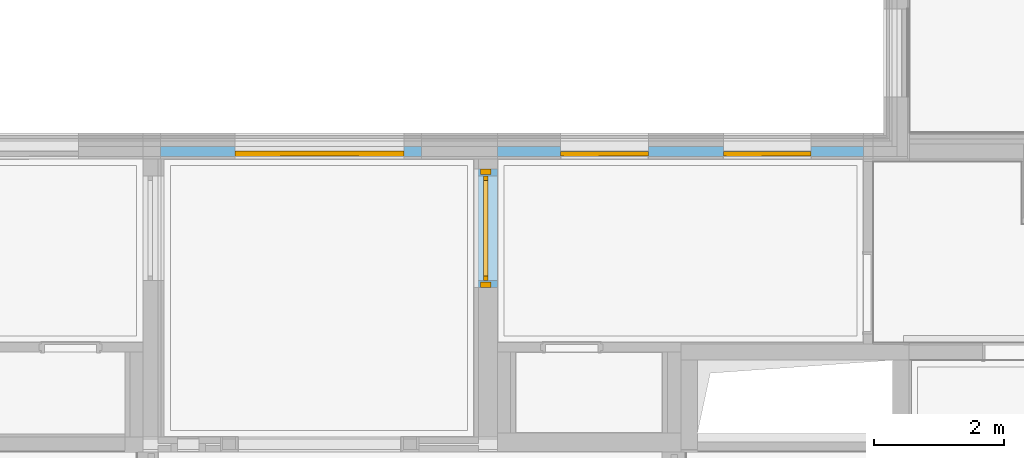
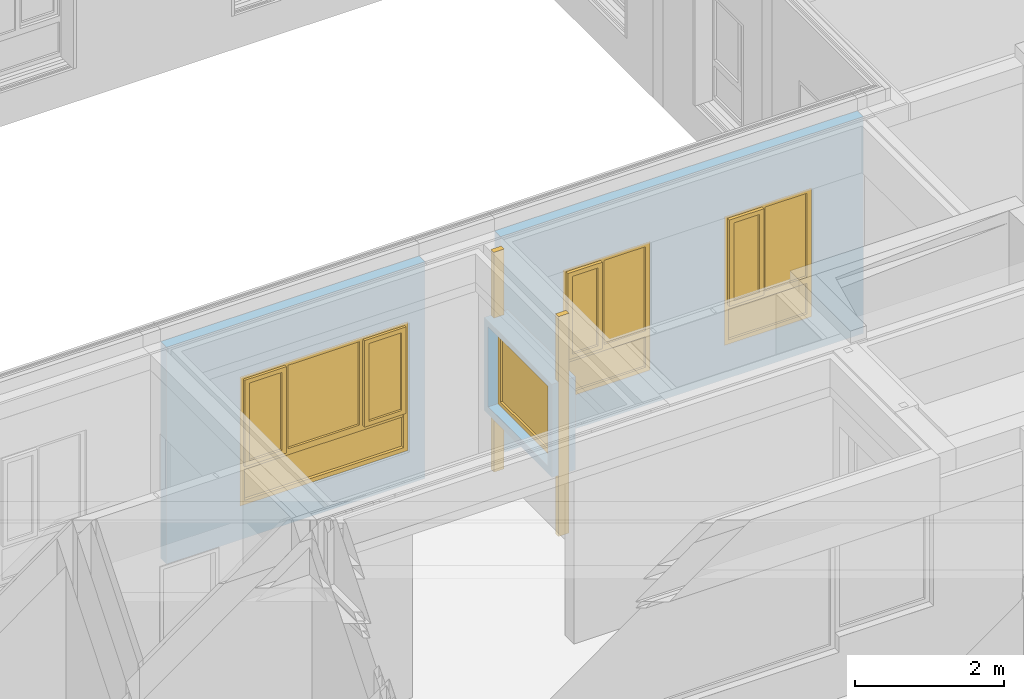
# One storey, part 94 of 222: 4 windows, 4 openings, plus 3 elements that do not belong to this part.
"""IFC4 building model written with IfcOpenShell, lengths in metres."""

from ifc_helpers import new_model, entity, si_unit, converted_unit, derived_unit, frame, frame_2d, origin, origin_with_axes, place, context, subcontext, project, spatial, polyline, rectangle, outline, extrude, closed_shell, open_shell, faceted_brep, surface_model, source, transform, mapped, material, element, fill, save


model = new_model("IFC4")

# Units and contexts
model_context = context("Model", 3, precision=1e-05, world=origin())
body_context = subcontext(model_context, "Body", "Model", "MODEL_VIEW")
ifc_project = project(units=[si_unit("LENGTHUNIT", "METRE"), si_unit("AREAUNIT", "SQUARE_METRE"), si_unit("VOLUMEUNIT", "CUBIC_METRE"), si_unit("MASSUNIT", "GRAM", prefix="KILO"), converted_unit("PLANEANGLEUNIT", "DEGREE", entity("IfcPlaneAngleMeasure", 0.0174532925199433), si_unit("PLANEANGLEUNIT", "RADIAN"), dimensions=[0, 0, 0, 0, 0, 0, 0]), derived_unit("THERMALTRANSMITTANCEUNIT", [(si_unit("POWERUNIT", "WATT"), 1), (si_unit("THERMODYNAMICTEMPERATUREUNIT", "KELVIN"), -1), (si_unit("LENGTHUNIT", "METRE"), -2)]), derived_unit("VOLUMETRICFLOWRATEUNIT", [(si_unit("LENGTHUNIT", "METRE"), 3), (converted_unit("TIMEUNIT", "hour", entity("IfcTimeMeasure", 3600.0), si_unit("TIMEUNIT", "SECOND"), dimensions=[0, 0, 1, 0, 0, 0, 0]), -1), (si_unit("LENGTHUNIT", "METRE"), -1)])], contexts=[model_context])

# Site, building, storey
site_placement = place(None, origin())
site = spatial("IfcSite", under=ifc_project, at=site_placement, Name="Psychiatrie Neubau Wunstorf", CompositionType="ELEMENT")
building_placement = place(site_placement, origin())
building = spatial("IfcBuilding", under=site, at=building_placement, Name="Neubau H2 Stationsgebäude", CompositionType="ELEMENT")
storey_placement = place(building_placement, frame((0.0, 0.0, 3.6)))
storey = spatial("IfcBuildingStorey", under=building, at=storey_placement, Name="H2 Ebene +1", CompositionType="ELEMENT", Elevation=3.6)

# Wall, openings, windows
ifc_material_1 = material(Name="WA-DL")
wall_1_placement = place(storey_placement, frame((55.7325000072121, 10.1499996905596, 0.0)))
wall_1 = element("IfcWall", 1, at=wall_1_placement, inside=storey, material=ifc_material_1, context=body_context, shape_type="SweptSolid", body=[
    extrude(rectangle(XDim=5.61749999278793, YDim=0.16, at=frame_2d((2.80874999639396, 0.08), x_axis=(1.0, 0.0))), origin_with_axes(), (0.0, 0.0, 1.0), 3.55),
])
opening_1_placement = place(wall_1_placement, frame((2.31619999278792, 0.16, 0.55), z_axis=(0.0, -1.0, 0.0), x_axis=(0.0, 0.0, 1.0)))
opening_1 = element("IfcOpeningElement", 2, at=opening_1_placement, cuts=wall_1, Name="Fensteröffnung", ObjectType="Opening", context=body_context, shape_type="SweptSolid", body=[
    extrude(outline(polyline([(2.115, 1.35), (2.115, 0.0), (0.0, 0.0), (0.0, 1.35), (2.115, 1.35)])), origin_with_axes(), (0.0, 0.0, 1.0), 0.16),
])
opening_2_placement = place(wall_1_placement, frame((4.81619999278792, 0.16, 0.55), z_axis=(0.0, -1.0, 0.0), x_axis=(0.0, 0.0, 1.0)))
opening_2 = element("IfcOpeningElement", 3, at=opening_2_placement, cuts=wall_1, Name="Fensteröffnung", ObjectType="Opening", context=body_context, shape_type="SweptSolid", body=[
    extrude(outline(polyline([(2.115, 1.35), (2.115, 0.0), (0.0, 0.0), (0.0, 1.35), (2.115, 1.35)])), origin_with_axes(), (0.0, 0.0, 1.0), 0.16),
])
shared_shape_1 = source(origin_with_axes(), body_context, "Body", "SurfaceModel", [
    surface_model("IfcShellBasedSurfaceModel", [(1.35, 0.0, 2.115), (1.35, 0.0, 0.0), (1.28, 0.0, 0.0), (1.28, 0.0, 2.115), (1.35, 0.0699999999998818, 0.0), (1.35, 0.0699999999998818, 2.115), (1.28, 0.0699999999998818, 2.115), (1.28, 0.0699999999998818, 0.0)], [closed_shell([[[0, 1, 2, 3]], [[4, 5, 6, 7]], [[1, 0, 5, 4]], [[2, 1, 4, 7]], [[3, 2, 7, 6]], [[0, 3, 6, 5]]], orient=[[False], [False], [False], [False], [False], [False]])]),
    surface_model("IfcShellBasedSurfaceModel", [(0.07, 0.0, 2.115), (0.07, 0.0, 0.0), (0.0, 0.0, 0.0), (0.0, 0.0, 2.115), (0.07, 0.0699999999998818, 0.0), (0.07, 0.0699999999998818, 2.115), (0.0, 0.0699999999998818, 2.115), (0.0, 0.0699999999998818, 0.0)], [closed_shell([[[0, 1, 2, 3]], [[4, 5, 6, 7]], [[1, 0, 5, 4]], [[2, 1, 4, 7]], [[3, 2, 7, 6]], [[0, 3, 6, 5]]], orient=[[False], [False], [False], [False], [False], [False]])]),
    surface_model("IfcShellBasedSurfaceModel", [(1.28, 0.0, 0.07), (1.28, 0.0, 0.0), (0.07, 0.0, 0.0), (0.07, 0.0, 0.07), (1.28, 0.0699999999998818, 0.0), (1.28, 0.0699999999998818, 0.07), (0.07, 0.0699999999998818, 0.07), (0.07, 0.0699999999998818, 0.0)], [closed_shell([[[0, 1, 2, 3]], [[4, 5, 6, 7]], [[1, 0, 5, 4]], [[2, 1, 4, 7]], [[3, 2, 7, 6]], [[0, 3, 6, 5]]], orient=[[False], [False], [False], [False], [False], [False]])]),
    surface_model("IfcShellBasedSurfaceModel", [(1.28, 0.0, 2.115), (1.28, 0.0, 2.045), (0.07, 0.0, 2.045), (0.07, 0.0, 2.115), (1.28, 0.0699999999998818, 2.045), (1.28, 0.0699999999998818, 2.115), (0.07, 0.0699999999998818, 2.115), (0.07, 0.0699999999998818, 2.045)], [closed_shell([[[0, 1, 2, 3]], [[4, 5, 6, 7]], [[1, 0, 5, 4]], [[2, 1, 4, 7]], [[3, 2, 7, 6]], [[0, 3, 6, 5]]], orient=[[False], [False], [False], [False], [False], [False]])]),
    surface_model("IfcShellBasedSurfaceModel", [(1.28, 0.0, 0.67), (1.28, 0.0, 0.57), (0.07, 0.0, 0.57), (0.07, 0.0, 0.67), (1.28, 0.0699999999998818, 0.57), (1.28, 0.0699999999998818, 0.67), (0.07, 0.0699999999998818, 0.67), (0.07, 0.0699999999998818, 0.57)], [closed_shell([[[0, 1, 2, 3]], [[4, 5, 6, 7]], [[1, 0, 5, 4]], [[2, 1, 4, 7]], [[3, 2, 7, 6]], [[0, 3, 6, 5]]], orient=[[False], [False], [False], [False], [False], [False]])]),
    surface_model("IfcShellBasedSurfaceModel", [(1.28, 0.03499999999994, 0.07), (0.07, 0.0349999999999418, 0.07), (0.07, 0.03499999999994, 0.57), (1.28, 0.03499999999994, 0.57)], [open_shell([[[0, 1, 2, 3]]], orient=[[False]])]),
    surface_model("IfcShellBasedSurfaceModel", [(0.784300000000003, 0.0, 2.045), (0.784300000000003, 0.0, 0.67), (0.714300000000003, 0.0, 0.67), (0.714300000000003, 0.0, 2.045), (0.784300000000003, 0.0699999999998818, 0.67), (0.784300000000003, 0.0699999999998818, 2.045), (0.714300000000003, 0.0699999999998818, 2.045), (0.714300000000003, 0.0699999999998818, 0.67)], [closed_shell([[[0, 1, 2, 3]], [[4, 5, 6, 7]], [[1, 0, 5, 4]], [[2, 1, 4, 7]], [[3, 2, 7, 6]], [[0, 3, 6, 5]]], orient=[[False], [False], [False], [False], [False], [False]])]),
    surface_model("IfcShellBasedSurfaceModel", [(1.3, 0.0499999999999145, 2.065), (1.3, 0.0499999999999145, 0.65), (1.23, 0.0499999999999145, 0.65), (1.23, 0.0499999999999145, 2.065), (1.3, 0.119999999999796, 0.65), (1.3, 0.119999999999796, 2.065), (1.23, 0.119999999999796, 2.065), (1.23, 0.119999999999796, 0.65)], [closed_shell([[[0, 1, 2, 3]], [[4, 5, 6, 7]], [[1, 0, 5, 4]], [[2, 1, 4, 7]], [[3, 2, 7, 6]], [[0, 3, 6, 5]]], orient=[[False], [False], [False], [False], [False], [False]])]),
    surface_model("IfcShellBasedSurfaceModel", [(0.834300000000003, 0.0499999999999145, 2.065), (0.834300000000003, 0.0499999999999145, 0.65), (0.764300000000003, 0.0499999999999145, 0.65), (0.764300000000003, 0.0499999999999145, 2.065), (0.834300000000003, 0.119999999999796, 0.65), (0.834300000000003, 0.119999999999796, 2.065), (0.764300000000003, 0.119999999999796, 2.065), (0.764300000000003, 0.119999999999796, 0.65)], [closed_shell([[[0, 1, 2, 3]], [[4, 5, 6, 7]], [[1, 0, 5, 4]], [[2, 1, 4, 7]], [[3, 2, 7, 6]], [[0, 3, 6, 5]]], orient=[[False], [False], [False], [False], [False], [False]])]),
    surface_model("IfcShellBasedSurfaceModel", [(1.23, 0.0499999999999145, 0.72), (1.23, 0.0499999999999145, 0.65), (0.834300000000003, 0.0499999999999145, 0.65), (0.834300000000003, 0.0499999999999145, 0.72), (1.23, 0.119999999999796, 0.65), (1.23, 0.119999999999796, 0.72), (0.834300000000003, 0.119999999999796, 0.72), (0.834300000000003, 0.119999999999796, 0.65)], [closed_shell([[[0, 1, 2, 3]], [[4, 5, 6, 7]], [[1, 0, 5, 4]], [[2, 1, 4, 7]], [[3, 2, 7, 6]], [[0, 3, 6, 5]]], orient=[[False], [False], [False], [False], [False], [False]])]),
    surface_model("IfcShellBasedSurfaceModel", [(1.23, 0.0499999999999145, 2.065), (1.23, 0.0499999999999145, 1.995), (0.834300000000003, 0.0499999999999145, 1.995), (0.834300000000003, 0.0499999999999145, 2.065), (1.23, 0.119999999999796, 1.995), (1.23, 0.119999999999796, 2.065), (0.834300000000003, 0.119999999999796, 2.065), (0.834300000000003, 0.119999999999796, 1.995)], [closed_shell([[[0, 1, 2, 3]], [[4, 5, 6, 7]], [[1, 0, 5, 4]], [[2, 1, 4, 7]], [[3, 2, 7, 6]], [[0, 3, 6, 5]]], orient=[[False], [False], [False], [False], [False], [False]])]),
    surface_model("IfcShellBasedSurfaceModel", [(0.714300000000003, 0.03499999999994, 0.67), (0.07, 0.03499999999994, 0.67), (0.07, 0.03499999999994, 2.045), (0.714300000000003, 0.03499999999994, 2.045)], [open_shell([[[0, 1, 2, 3]]], orient=[[False]])]),
    surface_model("IfcShellBasedSurfaceModel", [(1.23, 0.0849999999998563, 0.72), (0.834300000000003, 0.0849999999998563, 0.72), (0.834300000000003, 0.0849999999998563, 1.995), (1.23, 0.0849999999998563, 1.995)], [open_shell([[[0, 1, 2, 3]]], orient=[[False]])]),
])
window_1_placement = place(opening_1_placement, frame((0.0, 0.0, 0.081), z_axis=(1.0, 0.0, 0.0), x_axis=(0.0, 1.0, 0.0)))
window_1 = element("IfcWindow", 4, at=window_1_placement, inside=storey, Name="Fenster", OverallHeight=2.115, OverallWidth=1.35, PartitioningType="USERDEFINED", PredefinedType="WINDOW", context=body_context, shape_type="MappedRepresentation", body=[
    mapped(shared_shape_1, transform((0.0, 0.0, 0.0), x_axis=(1.0, 0.0, 0.0), y_axis=(0.0, 1.0, 0.0), z_axis=(0.0, 0.0, 1.0), scale=1.0)),
])
fill(opening_1, window_1)
shared_shape_2 = source(origin_with_axes(), body_context, "Body", "SurfaceModel", [
    surface_model("IfcShellBasedSurfaceModel", [(1.35, 0.0, 2.115), (1.35, 0.0, 0.0), (1.28, 0.0, 0.0), (1.28, 0.0, 2.115), (1.35, 0.0699999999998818, 0.0), (1.35, 0.0699999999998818, 2.115), (1.28, 0.0699999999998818, 2.115), (1.28, 0.0699999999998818, 0.0)], [closed_shell([[[0, 1, 2, 3]], [[4, 5, 6, 7]], [[1, 0, 5, 4]], [[2, 1, 4, 7]], [[3, 2, 7, 6]], [[0, 3, 6, 5]]], orient=[[False], [False], [False], [False], [False], [False]])]),
    surface_model("IfcShellBasedSurfaceModel", [(0.07, 0.0, 2.115), (0.07, 0.0, 0.0), (0.0, 0.0, 0.0), (0.0, 0.0, 2.115), (0.07, 0.0699999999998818, 0.0), (0.07, 0.0699999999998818, 2.115), (0.0, 0.0699999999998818, 2.115), (0.0, 0.0699999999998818, 0.0)], [closed_shell([[[0, 1, 2, 3]], [[4, 5, 6, 7]], [[1, 0, 5, 4]], [[2, 1, 4, 7]], [[3, 2, 7, 6]], [[0, 3, 6, 5]]], orient=[[False], [False], [False], [False], [False], [False]])]),
    surface_model("IfcShellBasedSurfaceModel", [(1.28, 0.0, 0.07), (1.28, 0.0, 0.0), (0.07, 0.0, 0.0), (0.07, 0.0, 0.07), (1.28, 0.0699999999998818, 0.0), (1.28, 0.0699999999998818, 0.07), (0.07, 0.0699999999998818, 0.07), (0.07, 0.0699999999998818, 0.0)], [closed_shell([[[0, 1, 2, 3]], [[4, 5, 6, 7]], [[1, 0, 5, 4]], [[2, 1, 4, 7]], [[3, 2, 7, 6]], [[0, 3, 6, 5]]], orient=[[False], [False], [False], [False], [False], [False]])]),
    surface_model("IfcShellBasedSurfaceModel", [(1.28, 0.0, 2.115), (1.28, 0.0, 2.045), (0.07, 0.0, 2.045), (0.07, 0.0, 2.115), (1.28, 0.0699999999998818, 2.045), (1.28, 0.0699999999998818, 2.115), (0.07, 0.0699999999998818, 2.115), (0.07, 0.0699999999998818, 2.045)], [closed_shell([[[0, 1, 2, 3]], [[4, 5, 6, 7]], [[1, 0, 5, 4]], [[2, 1, 4, 7]], [[3, 2, 7, 6]], [[0, 3, 6, 5]]], orient=[[False], [False], [False], [False], [False], [False]])]),
    surface_model("IfcShellBasedSurfaceModel", [(1.28, 0.0, 0.67), (1.28, 0.0, 0.57), (0.07, 0.0, 0.57), (0.07, 0.0, 0.67), (1.28, 0.0699999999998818, 0.57), (1.28, 0.0699999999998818, 0.67), (0.07, 0.0699999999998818, 0.67), (0.07, 0.0699999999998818, 0.57)], [closed_shell([[[0, 1, 2, 3]], [[4, 5, 6, 7]], [[1, 0, 5, 4]], [[2, 1, 4, 7]], [[3, 2, 7, 6]], [[0, 3, 6, 5]]], orient=[[False], [False], [False], [False], [False], [False]])]),
    surface_model("IfcShellBasedSurfaceModel", [(1.28, 0.03499999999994, 0.07), (0.07, 0.0349999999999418, 0.07), (0.07, 0.03499999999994, 0.57), (1.28, 0.03499999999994, 0.57)], [open_shell([[[0, 1, 2, 3]]], orient=[[False]])]),
    surface_model("IfcShellBasedSurfaceModel", [(0.784300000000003, 0.0, 2.045), (0.784300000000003, 0.0, 0.67), (0.714300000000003, 0.0, 0.67), (0.714300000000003, 0.0, 2.045), (0.784300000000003, 0.0699999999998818, 0.67), (0.784300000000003, 0.0699999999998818, 2.045), (0.714300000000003, 0.0699999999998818, 2.045), (0.714300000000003, 0.0699999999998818, 0.67)], [closed_shell([[[0, 1, 2, 3]], [[4, 5, 6, 7]], [[1, 0, 5, 4]], [[2, 1, 4, 7]], [[3, 2, 7, 6]], [[0, 3, 6, 5]]], orient=[[False], [False], [False], [False], [False], [False]])]),
    surface_model("IfcShellBasedSurfaceModel", [(1.3, 0.0499999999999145, 2.065), (1.3, 0.0499999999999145, 0.65), (1.23, 0.0499999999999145, 0.65), (1.23, 0.0499999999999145, 2.065), (1.3, 0.119999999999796, 0.65), (1.3, 0.119999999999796, 2.065), (1.23, 0.119999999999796, 2.065), (1.23, 0.119999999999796, 0.65)], [closed_shell([[[0, 1, 2, 3]], [[4, 5, 6, 7]], [[1, 0, 5, 4]], [[2, 1, 4, 7]], [[3, 2, 7, 6]], [[0, 3, 6, 5]]], orient=[[False], [False], [False], [False], [False], [False]])]),
    surface_model("IfcShellBasedSurfaceModel", [(0.834300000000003, 0.0499999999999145, 2.065), (0.834300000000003, 0.0499999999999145, 0.65), (0.764300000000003, 0.0499999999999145, 0.65), (0.764300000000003, 0.0499999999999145, 2.065), (0.834300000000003, 0.119999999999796, 0.65), (0.834300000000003, 0.119999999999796, 2.065), (0.764300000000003, 0.119999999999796, 2.065), (0.764300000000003, 0.119999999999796, 0.65)], [closed_shell([[[0, 1, 2, 3]], [[4, 5, 6, 7]], [[1, 0, 5, 4]], [[2, 1, 4, 7]], [[3, 2, 7, 6]], [[0, 3, 6, 5]]], orient=[[False], [False], [False], [False], [False], [False]])]),
    surface_model("IfcShellBasedSurfaceModel", [(1.23, 0.0499999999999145, 0.72), (1.23, 0.0499999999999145, 0.65), (0.834300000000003, 0.0499999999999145, 0.65), (0.834300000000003, 0.0499999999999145, 0.72), (1.23, 0.119999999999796, 0.65), (1.23, 0.119999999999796, 0.72), (0.834300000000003, 0.119999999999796, 0.72), (0.834300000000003, 0.119999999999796, 0.65)], [closed_shell([[[0, 1, 2, 3]], [[4, 5, 6, 7]], [[1, 0, 5, 4]], [[2, 1, 4, 7]], [[3, 2, 7, 6]], [[0, 3, 6, 5]]], orient=[[False], [False], [False], [False], [False], [False]])]),
    surface_model("IfcShellBasedSurfaceModel", [(1.23, 0.0499999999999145, 2.065), (1.23, 0.0499999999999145, 1.995), (0.834300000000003, 0.0499999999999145, 1.995), (0.834300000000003, 0.0499999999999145, 2.065), (1.23, 0.119999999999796, 1.995), (1.23, 0.119999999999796, 2.065), (0.834300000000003, 0.119999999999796, 2.065), (0.834300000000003, 0.119999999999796, 1.995)], [closed_shell([[[0, 1, 2, 3]], [[4, 5, 6, 7]], [[1, 0, 5, 4]], [[2, 1, 4, 7]], [[3, 2, 7, 6]], [[0, 3, 6, 5]]], orient=[[False], [False], [False], [False], [False], [False]])]),
    surface_model("IfcShellBasedSurfaceModel", [(0.714300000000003, 0.03499999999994, 0.67), (0.07, 0.03499999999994, 0.67), (0.07, 0.03499999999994, 2.045), (0.714300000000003, 0.03499999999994, 2.045)], [open_shell([[[0, 1, 2, 3]]], orient=[[False]])]),
    surface_model("IfcShellBasedSurfaceModel", [(1.23, 0.0849999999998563, 0.72), (0.834300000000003, 0.0849999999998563, 0.72), (0.834300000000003, 0.0849999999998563, 1.995), (1.23, 0.0849999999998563, 1.995)], [open_shell([[[0, 1, 2, 3]]], orient=[[False]])]),
])
window_2_placement = place(opening_2_placement, frame((0.0, 0.0, 0.081), z_axis=(1.0, 0.0, 0.0), x_axis=(0.0, 1.0, 0.0)))
window_2 = element("IfcWindow", 5, at=window_2_placement, inside=storey, Name="Fenster", OverallHeight=2.115, OverallWidth=1.35, PartitioningType="USERDEFINED", PredefinedType="WINDOW", context=body_context, shape_type="MappedRepresentation", body=[
    mapped(shared_shape_2, transform((0.0, 0.0, 0.0), x_axis=(1.0, 0.0, 0.0), y_axis=(0.0, 1.0, 0.0), z_axis=(0.0, 0.0, 1.0), scale=1.0)),
])
fill(opening_2, window_2)

# Wall, opening, window
ifc_material_2 = material(Name="WA-DL")
wall_2_placement = place(storey_placement, frame((50.5580000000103, 10.1499996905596, 0.0)))
wall_2 = element("IfcWall", 6, at=wall_2_placement, inside=storey, material=ifc_material_2, context=body_context, shape_type="SweptSolid", body=[
    extrude(rectangle(XDim=4.00450000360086, YDim=0.16, at=frame_2d((2.00225000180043, 0.08), x_axis=(1.0, 0.0))), origin_with_axes(), (0.0, 0.0, 1.0), 3.55),
])
opening_3_placement = place(wall_2_placement, frame((3.74067714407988, 0.16, 0.55), z_axis=(0.0, -1.0, 0.0), x_axis=(0.0, 0.0, 1.0)))
opening_3 = element("IfcOpeningElement", 7, at=opening_3_placement, cuts=wall_2, Name="Fensteröffnung", ObjectType="Opening", context=body_context, shape_type="SweptSolid", body=[
    extrude(outline(polyline([(2.115, 2.6), (2.115, 0.0), (0.0, 0.0), (0.0, 2.6), (2.115, 2.6)])), origin_with_axes(), (0.0, 0.0, 1.0), 0.16),
])
shared_shape_3 = source(origin_with_axes(), body_context, "Body", "SurfaceModel", [
    surface_model("IfcShellBasedSurfaceModel", [(2.6, 0.0, 2.115), (2.6, 0.0, 0.0), (2.53, 0.0, 0.0), (2.53, 0.0, 2.115), (2.6, 0.08, 0.0), (2.6, 0.08, 2.115), (2.53, 0.08, 2.115), (2.53, 0.08, 0.0)], [closed_shell([[[0, 1, 2, 3]], [[4, 5, 6, 7]], [[1, 0, 5, 4]], [[2, 1, 4, 7]], [[3, 2, 7, 6]], [[0, 3, 6, 5]]], orient=[[False], [False], [False], [False], [False], [False]])]),
    surface_model("IfcShellBasedSurfaceModel", [(0.07, 0.0, 2.115), (0.07, 0.0, 0.0), (0.0, 0.0, 0.0), (0.0, 0.0, 2.115), (0.07, 0.08, 0.0), (0.07, 0.08, 2.115), (0.0, 0.08, 2.115), (0.0, 0.08, 0.0)], [closed_shell([[[0, 1, 2, 3]], [[4, 5, 6, 7]], [[1, 0, 5, 4]], [[2, 1, 4, 7]], [[3, 2, 7, 6]], [[0, 3, 6, 5]]], orient=[[False], [False], [False], [False], [False], [False]])]),
    surface_model("IfcShellBasedSurfaceModel", [(2.53, 0.0, 0.07), (2.53, 0.0, 0.0), (0.07, 0.0, 0.0), (0.07, 0.0, 0.07), (2.53, 0.08, 0.0), (2.53, 0.08, 0.07), (0.07, 0.08, 0.07), (0.07, 0.08, 0.0)], [closed_shell([[[0, 1, 2, 3]], [[4, 5, 6, 7]], [[1, 0, 5, 4]], [[2, 1, 4, 7]], [[3, 2, 7, 6]], [[0, 3, 6, 5]]], orient=[[False], [False], [False], [False], [False], [False]])]),
    surface_model("IfcShellBasedSurfaceModel", [(2.53, 0.0, 2.115), (2.53, 0.0, 2.045), (0.07, 0.0, 2.045), (0.07, 0.0, 2.115), (2.53, 0.08, 2.045), (2.53, 0.08, 2.115), (0.07, 0.08, 2.115), (0.07, 0.08, 2.045)], [closed_shell([[[0, 1, 2, 3]], [[4, 5, 6, 7]], [[1, 0, 5, 4]], [[2, 1, 4, 7]], [[3, 2, 7, 6]], [[0, 3, 6, 5]]], orient=[[False], [False], [False], [False], [False], [False]])]),
    surface_model("IfcShellBasedSurfaceModel", [(2.53, 0.01, 0.67), (2.53, 0.01, 0.57), (0.07, 0.01, 0.57), (0.07, 0.01, 0.67), (2.53, 0.08, 0.57), (2.53, 0.08, 0.67), (0.07, 0.08, 0.67), (0.07, 0.08, 0.57)], [closed_shell([[[0, 1, 2, 3]], [[4, 5, 6, 7]], [[1, 0, 5, 4]], [[2, 1, 4, 7]], [[3, 2, 7, 6]], [[0, 3, 6, 5]]], orient=[[False], [False], [False], [False], [False], [False]])]),
    surface_model("IfcShellBasedSurfaceModel", [(2.53, 0.045, 0.07), (0.07, 0.045, 0.07), (0.07, 0.045, 0.57), (2.53, 0.045, 0.57)], [open_shell([[[0, 1, 2, 3]]], orient=[[False]])]),
    surface_model("IfcShellBasedSurfaceModel", [(1.925, 0.01, 2.045), (1.925, 0.01, 0.67), (1.855, 0.01, 0.67), (1.855, 0.01, 2.045), (1.925, 0.08, 0.67), (1.925, 0.08, 2.045), (1.855, 0.08, 2.045), (1.855, 0.08, 0.67)], [closed_shell([[[0, 1, 2, 3]], [[4, 5, 6, 7]], [[1, 0, 5, 4]], [[2, 1, 4, 7]], [[3, 2, 7, 6]], [[0, 3, 6, 5]]], orient=[[False], [False], [False], [False], [False], [False]])]),
    surface_model("IfcShellBasedSurfaceModel", [(2.55, -0.0400000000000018, 2.065), (2.55, -0.0400000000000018, 0.65), (2.48, -0.0400000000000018, 0.65), (2.48, -0.0400000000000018, 2.065), (2.55, 0.03, 0.65), (2.55, 0.03, 2.065), (2.48, 0.03, 2.065), (2.48, 0.03, 0.65)], [closed_shell([[[0, 1, 2, 3]], [[4, 5, 6, 7]], [[1, 0, 5, 4]], [[2, 1, 4, 7]], [[3, 2, 7, 6]], [[0, 3, 6, 5]]], orient=[[False], [False], [False], [False], [False], [False]])]),
    surface_model("IfcShellBasedSurfaceModel", [(1.975, -0.0400000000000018, 2.065), (1.975, -0.04, 0.65), (1.905, -0.04, 0.65), (1.905, -0.0400000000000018, 2.065), (1.975, 0.03, 0.65), (1.975, 0.03, 2.065), (1.905, 0.03, 2.065), (1.905, 0.03, 0.65)], [closed_shell([[[0, 1, 2, 3]], [[4, 5, 6, 7]], [[1, 0, 5, 4]], [[2, 1, 4, 7]], [[3, 2, 7, 6]], [[0, 3, 6, 5]]], orient=[[False], [False], [False], [False], [False], [False]])]),
    surface_model("IfcShellBasedSurfaceModel", [(2.48, -0.0400000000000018, 0.72), (2.48, -0.0400000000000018, 0.65), (1.975, -0.04, 0.65), (1.975, -0.0400000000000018, 0.72), (2.48, 0.03, 0.65), (2.48, 0.03, 0.72), (1.975, 0.03, 0.72), (1.975, 0.03, 0.65)], [closed_shell([[[0, 1, 2, 3]], [[4, 5, 6, 7]], [[1, 0, 5, 4]], [[2, 1, 4, 7]], [[3, 2, 7, 6]], [[0, 3, 6, 5]]], orient=[[False], [False], [False], [False], [False], [False]])]),
    surface_model("IfcShellBasedSurfaceModel", [(2.48, -0.0400000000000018, 2.065), (2.48, -0.0400000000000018, 1.995), (1.975, -0.0400000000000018, 1.995), (1.975, -0.0400000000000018, 2.065), (2.48, 0.03, 1.995), (2.48, 0.03, 2.065), (1.975, 0.03, 2.065), (1.975, 0.03, 1.995)], [closed_shell([[[0, 1, 2, 3]], [[4, 5, 6, 7]], [[1, 0, 5, 4]], [[2, 1, 4, 7]], [[3, 2, 7, 6]], [[0, 3, 6, 5]]], orient=[[False], [False], [False], [False], [False], [False]])]),
    surface_model("IfcShellBasedSurfaceModel", [(0.745, 0.01, 2.045), (0.745, 0.01, 0.67), (0.675, 0.01, 0.67), (0.675, 0.01, 2.045), (0.745, 0.08, 0.67), (0.745, 0.08, 2.045), (0.675, 0.08, 2.045), (0.675, 0.08, 0.67)], [closed_shell([[[0, 1, 2, 3]], [[4, 5, 6, 7]], [[1, 0, 5, 4]], [[2, 1, 4, 7]], [[3, 2, 7, 6]], [[0, 3, 6, 5]]], orient=[[False], [False], [False], [False], [False], [False]])]),
    surface_model("IfcShellBasedSurfaceModel", [(1.855, 0.045, 0.67), (0.745, 0.045, 0.67), (0.745, 0.045, 2.045), (1.855, 0.045, 2.045)], [open_shell([[[0, 1, 2, 3]]], orient=[[False]])]),
    surface_model("IfcShellBasedSurfaceModel", [(0.695, -0.0400000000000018, 2.065), (0.695, -0.04, 0.65), (0.625, -0.04, 0.65), (0.625, -0.04, 2.065), (0.695, 0.03, 0.65), (0.695, 0.03, 2.065), (0.625, 0.03, 2.065), (0.625, 0.03, 0.65)], [closed_shell([[[0, 1, 2, 3]], [[4, 5, 6, 7]], [[1, 0, 5, 4]], [[2, 1, 4, 7]], [[3, 2, 7, 6]], [[0, 3, 6, 5]]], orient=[[False], [False], [False], [False], [False], [False]])]),
    surface_model("IfcShellBasedSurfaceModel", [(0.12, -0.04, 2.065), (0.12, -0.04, 0.65), (0.05, -0.04, 0.65), (0.05, -0.04, 2.065), (0.12, 0.03, 0.65), (0.12, 0.03, 2.065), (0.05, 0.03, 2.065), (0.05, 0.03, 0.65)], [closed_shell([[[0, 1, 2, 3]], [[4, 5, 6, 7]], [[1, 0, 5, 4]], [[2, 1, 4, 7]], [[3, 2, 7, 6]], [[0, 3, 6, 5]]], orient=[[False], [False], [False], [False], [False], [False]])]),
    surface_model("IfcShellBasedSurfaceModel", [(0.625, -0.04, 0.72), (0.625, -0.04, 0.65), (0.12, -0.04, 0.65), (0.12, -0.04, 0.72), (0.625, 0.03, 0.65), (0.625, 0.03, 0.72), (0.12, 0.03, 0.72), (0.12, 0.03, 0.65)], [closed_shell([[[0, 1, 2, 3]], [[4, 5, 6, 7]], [[1, 0, 5, 4]], [[2, 1, 4, 7]], [[3, 2, 7, 6]], [[0, 3, 6, 5]]], orient=[[False], [False], [False], [False], [False], [False]])]),
    surface_model("IfcShellBasedSurfaceModel", [(0.625, -0.0400000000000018, 2.065), (0.625, -0.04, 1.995), (0.12, -0.04, 1.995), (0.12, -0.04, 2.065), (0.625, 0.03, 1.995), (0.625, 0.03, 2.065), (0.12, 0.03, 2.065), (0.12, 0.03, 1.995)], [closed_shell([[[0, 1, 2, 3]], [[4, 5, 6, 7]], [[1, 0, 5, 4]], [[2, 1, 4, 7]], [[3, 2, 7, 6]], [[0, 3, 6, 5]]], orient=[[False], [False], [False], [False], [False], [False]])]),
    surface_model("IfcShellBasedSurfaceModel", [(2.48, -0.005, 0.72), (1.975, -0.005, 0.72), (1.975, -0.005, 1.995), (2.48, -0.005, 1.995)], [open_shell([[[0, 1, 2, 3]]], orient=[[False]])]),
    surface_model("IfcShellBasedSurfaceModel", [(0.625, -0.005, 0.72), (0.12, -0.005, 0.72), (0.12, -0.005, 1.995), (0.625, -0.005, 1.995)], [open_shell([[[0, 1, 2, 3]]], orient=[[False]])]),
])
window_3_placement = place(opening_3_placement, frame((0.0, 2.6, 0.156), z_axis=(1.0, 0.0, 0.0), x_axis=(0.0, -1.0, 0.0)))
window_3 = element("IfcWindow", 8, at=window_3_placement, inside=storey, Name="Fenster", OverallHeight=2.115, OverallWidth=2.6, PartitioningType="USERDEFINED", PredefinedType="WINDOW", context=body_context, shape_type="MappedRepresentation", body=[
    mapped(shared_shape_3, transform((0.0, 0.0, 0.0), x_axis=(1.0, 0.0, 0.0), y_axis=(0.0, 1.0, 0.0), z_axis=(0.0, 0.0, 1.0), scale=1.0)),
])
fill(opening_3, window_3)

ifc_material_3 = material(Name="WI-LW 60")
wall_3_placement = place(storey_placement, frame((55.3675000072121, 9.95899969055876, 0.95), z_axis=(0.0, 0.0, 1.0), x_axis=(0.0, -1.0, 0.0)))
wall_3 = element("IfcWall", 9, at=wall_3_placement, inside=storey, material=ifc_material_3, context=body_context, shape_type="SweptSolid", body=[
    extrude(rectangle(XDim=1.815, YDim=0.365, at=frame_2d((0.9075, 0.1825), x_axis=(1.0, 0.0))), origin_with_axes(), (0.0, 0.0, 1.0), 1.525),
])
opening_4_placement = place(wall_3_placement, frame((0.1075, 0.0, 0.125), z_axis=(0.0, 1.0, 0.0), x_axis=(0.0, 0.0, 1.0)))
opening_4 = element("IfcOpeningElement", 10, at=opening_4_placement, cuts=wall_3, Name="Fensteröffnung", ObjectType="Opening", context=body_context, shape_type="SweptSolid", body=[
    extrude(outline(polyline([(1.31, 1.6), (1.31, 0.0), (0.0, 0.0), (0.0, 1.6), (1.31, 1.6)])), origin_with_axes(), (0.0, 0.0, 1.0), 0.365),
])
shared_shape_4 = source(origin_with_axes(), body_context, "Body", "Brep", [
    faceted_brep([(-0.107499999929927, -0.0444999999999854, -1.125), (-0.0274999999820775, -0.0444999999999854, -1.125), (-0.0274999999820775, 0.115500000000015, -1.125), (-0.107499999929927, 0.115500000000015, -1.125), (-0.107499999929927, 0.115500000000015, 2.475), (-0.0274999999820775, 0.115500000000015, 2.475), (-0.0274999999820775, -0.0444999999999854, 2.475), (-0.107499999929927, -0.0444999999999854, 2.475)], [[[0, 1, 2, 3]], [[4, 5, 6, 7]], [[3, 4, 7, 0]], [[2, 5, 4, 3]], [[1, 6, 5, 2]], [[0, 7, 6, 1]]], orient=[[False], [False], [False], [False], [False], [False]]),
    faceted_brep([(1.62749999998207, -0.0444999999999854, -1.125), (1.70749999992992, -0.0444999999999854, -1.125), (1.70749999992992, 0.115500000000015, -1.125), (1.62749999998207, 0.115500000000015, -1.125), (1.62749999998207, 0.115500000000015, 2.475), (1.70749999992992, 0.115500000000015, 2.475), (1.70749999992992, -0.0444999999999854, 2.475), (1.62749999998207, -0.0444999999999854, 2.475)], [[[0, 1, 2, 3]], [[4, 5, 6, 7]], [[3, 4, 7, 0]], [[2, 5, 4, 3]], [[1, 6, 5, 2]], [[0, 7, 6, 1]]], orient=[[False], [False], [False], [False], [False], [False]]),
])
shared_shape_5 = source(origin_with_axes(), body_context, "Body", "SurfaceModel", [
    surface_model("IfcShellBasedSurfaceModel", [(1.6, 0.000500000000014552, 1.31), (1.6, 0.000500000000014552, 0.0), (1.53, 0.000500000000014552, 0.0), (1.53, 0.000500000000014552, 1.31), (1.6, 0.0705000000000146, 0.0), (1.6, 0.0705000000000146, 1.31), (1.53, 0.0705000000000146, 1.31), (1.53, 0.0705000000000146, 0.0)], [closed_shell([[[0, 1, 2, 3]], [[4, 5, 6, 7]], [[1, 0, 5, 4]], [[2, 1, 4, 7]], [[3, 2, 7, 6]], [[0, 3, 6, 5]]], orient=[[False], [False], [False], [False], [False], [False]])]),
    surface_model("IfcShellBasedSurfaceModel", [(0.0699999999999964, 0.000500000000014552, 1.31), (0.0699999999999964, 0.000500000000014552, 0.0), (0.0, 0.000500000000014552, 0.0), (0.0, 0.000500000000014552, 1.31), (0.0699999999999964, 0.0705000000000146, 0.0), (0.0699999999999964, 0.0705000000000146, 1.31), (0.0, 0.0705000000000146, 1.31), (0.0, 0.0705000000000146, 0.0)], [closed_shell([[[0, 1, 2, 3]], [[4, 5, 6, 7]], [[1, 0, 5, 4]], [[2, 1, 4, 7]], [[3, 2, 7, 6]], [[0, 3, 6, 5]]], orient=[[False], [False], [False], [False], [False], [False]])]),
    surface_model("IfcShellBasedSurfaceModel", [(1.53, 0.000500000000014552, 0.07), (1.53, 0.000500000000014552, 0.0), (0.0699999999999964, 0.000500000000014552, 0.0), (0.0699999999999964, 0.000500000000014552, 0.07), (1.53, 0.0705000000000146, 0.0), (1.53, 0.0705000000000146, 0.07), (0.0699999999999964, 0.0705000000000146, 0.07), (0.0699999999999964, 0.0705000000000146, 0.0)], [closed_shell([[[0, 1, 2, 3]], [[4, 5, 6, 7]], [[1, 0, 5, 4]], [[2, 1, 4, 7]], [[3, 2, 7, 6]], [[0, 3, 6, 5]]], orient=[[False], [False], [False], [False], [False], [False]])]),
    surface_model("IfcShellBasedSurfaceModel", [(1.53, 0.000500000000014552, 1.31), (1.53, 0.000500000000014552, 1.24), (0.0699999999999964, 0.000500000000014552, 1.24), (0.0699999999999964, 0.000500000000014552, 1.31), (1.53, 0.0705000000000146, 1.24), (1.53, 0.0705000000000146, 1.31), (0.0699999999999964, 0.0705000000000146, 1.31), (0.0699999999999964, 0.0705000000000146, 1.24)], [closed_shell([[[0, 1, 2, 3]], [[4, 5, 6, 7]], [[1, 0, 5, 4]], [[2, 1, 4, 7]], [[3, 2, 7, 6]], [[0, 3, 6, 5]]], orient=[[False], [False], [False], [False], [False], [False]])]),
    surface_model("IfcShellBasedSurfaceModel", [(1.53, 0.0355000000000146, 0.07), (0.0699999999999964, 0.0355000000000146, 0.07), (0.0699999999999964, 0.0355000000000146, 1.24), (1.53, 0.0355000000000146, 1.24)], [open_shell([[[0, 1, 2, 3]]], orient=[[False]])]),
])
window_4_placement = place(opening_4_placement, frame((0.0, 1.6, 0.218), z_axis=(1.0, 0.0, 0.0), x_axis=(0.0, -1.0, 0.0)))
window_4 = element("IfcWindow", 11, at=window_4_placement, inside=storey, Name="Fenster", OverallHeight=1.31, OverallWidth=1.6, PartitioningType="USERDEFINED", PredefinedType="WINDOW", context=body_context, shape_type="MappedRepresentation", body=[
    mapped(shared_shape_4, transform((0.0, 0.0, 0.0), x_axis=(1.0, 0.0, 0.0), y_axis=(0.0, 1.0, 0.0), z_axis=(0.0, 0.0, 1.0), scale=1.0)),
    mapped(shared_shape_5, transform((0.0, 0.0, 0.0), x_axis=(1.0, 0.0, 0.0), y_axis=(0.0, 1.0, 0.0), z_axis=(0.0, 0.0, 1.0), scale=1.0)),
])
fill(opening_4, window_4)

save(model, "model.ifc")
